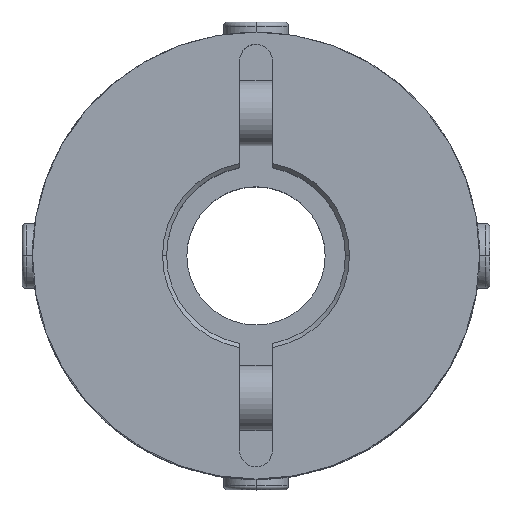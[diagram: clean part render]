
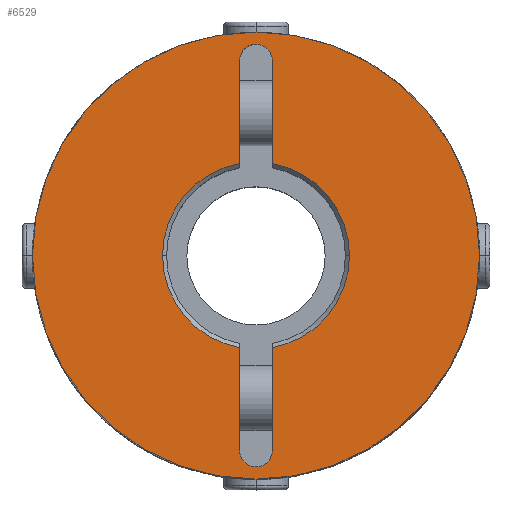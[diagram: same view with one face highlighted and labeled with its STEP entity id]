
A CAD part, top view. The second image highlights one B-rep face of the part: STEP entity #6529.
In plain terms, the highlighted planar face has unit normal (0, 0, 1).
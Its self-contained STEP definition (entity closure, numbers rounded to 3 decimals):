
#2557=CARTESIAN_POINT('',(11.5,0.,29.0));
#2558=VERTEX_POINT('',#2557);
#2574=CARTESIAN_POINT('',(2.,-11.325,29.0));
#2575=VERTEX_POINT('',#2574);
#2589=CARTESIAN_POINT('',(0.,0.0,29.0));
#2590=DIRECTION('',(0.0,0.0,1.0));
#2591=DIRECTION('',(-1.0,0.0,0.0));
#2592=AXIS2_PLACEMENT_3D('',#2589,#2590,#2591);
#2593=CIRCLE('',#2592,11.5);
#2594=EDGE_CURVE('',#2575,#2558,#2593,.T.);
#2756=CARTESIAN_POINT('',(-11.5,0.,29.0));
#2757=VERTEX_POINT('',#2756);
#2764=CARTESIAN_POINT('',(-2.,-11.325,29.0));
#2765=VERTEX_POINT('',#2764);
#2766=CARTESIAN_POINT('',(0.,0.0,29.0));
#2767=DIRECTION('',(0.0,0.0,1.0));
#2768=DIRECTION('',(-1.0,0.0,0.0));
#2769=AXIS2_PLACEMENT_3D('',#2766,#2767,#2768);
#2770=CIRCLE('',#2769,11.5);
#2771=EDGE_CURVE('',#2757,#2765,#2770,.T.);
#2797=CARTESIAN_POINT('',(-1.414,25.414,29.0));
#2798=VERTEX_POINT('',#2797);
#2814=CARTESIAN_POINT('',(2.,24.,29.0));
#2815=VERTEX_POINT('',#2814);
#2822=CARTESIAN_POINT('',(0.,24.,29.0));
#2823=DIRECTION('',(0.0,0.0,1.));
#2824=DIRECTION('',(0.707,0.707,0.0));
#2825=AXIS2_PLACEMENT_3D('',#2822,#2823,#2824);
#2826=CIRCLE('',#2825,2.);
#2827=EDGE_CURVE('',#2815,#2798,#2826,.T.);
#2839=CARTESIAN_POINT('',(1.414,-25.414,29.0));
#2840=VERTEX_POINT('',#2839);
#2856=CARTESIAN_POINT('',(-2.,-24.,29.0));
#2857=VERTEX_POINT('',#2856);
#2864=CARTESIAN_POINT('',(0.,-24.,29.0));
#2865=DIRECTION('',(0.0,0.0,1.0));
#2866=DIRECTION('',(-0.707,-0.707,0.0));
#2867=AXIS2_PLACEMENT_3D('',#2864,#2865,#2866);
#2868=CIRCLE('',#2867,2.0);
#2869=EDGE_CURVE('',#2857,#2840,#2868,.T.);
#3424=CARTESIAN_POINT('',(-27.5,0.,29.0));
#3425=VERTEX_POINT('',#3424);
#3432=CARTESIAN_POINT('',(27.5,0.0,29.0));
#3433=VERTEX_POINT('',#3432);
#3434=CARTESIAN_POINT('',(0.,0.0,29.0));
#3435=DIRECTION('',(0.0,0.0,-1.0));
#3436=DIRECTION('',(1.0,0.0,0.0));
#3437=AXIS2_PLACEMENT_3D('',#3434,#3435,#3436);
#3438=CIRCLE('',#3437,27.5);
#3439=EDGE_CURVE('',#3425,#3433,#3438,.T.);
#5730=CARTESIAN_POINT('',(0.,0.0,29.0));
#5731=DIRECTION('',(0.0,0.0,-1.0));
#5732=DIRECTION('',(1.0,0.0,0.0));
#5733=AXIS2_PLACEMENT_3D('',#5730,#5731,#5732);
#5734=CIRCLE('',#5733,27.5);
#5735=EDGE_CURVE('',#3433,#3425,#5734,.T.);
#6288=CARTESIAN_POINT('',(2.,-24.,29.0));
#6289=VERTEX_POINT('',#6288);
#6290=CARTESIAN_POINT('',(0.,-24.,29.0));
#6291=DIRECTION('',(0.0,0.0,1.0));
#6292=DIRECTION('',(-0.707,-0.707,0.0));
#6293=AXIS2_PLACEMENT_3D('',#6290,#6291,#6292);
#6294=CIRCLE('',#6293,2.0);
#6295=EDGE_CURVE('',#2840,#6289,#6294,.T.);
#6313=CARTESIAN_POINT('',(2.,-11.325,29.0));
#6314=DIRECTION('',(0.0,-1.0,0.0));
#6315=VECTOR('',#6314,12.675);
#6316=LINE('',#6313,#6315);
#6317=EDGE_CURVE('',#2575,#6289,#6316,.T.);
#6336=CARTESIAN_POINT('',(-2.,24.,29.0));
#6337=VERTEX_POINT('',#6336);
#6338=CARTESIAN_POINT('',(0.,24.,29.0));
#6339=DIRECTION('',(0.0,0.0,1.));
#6340=DIRECTION('',(0.707,0.707,0.0));
#6341=AXIS2_PLACEMENT_3D('',#6338,#6339,#6340);
#6342=CIRCLE('',#6341,2.);
#6343=EDGE_CURVE('',#2798,#6337,#6342,.T.);
#6361=CARTESIAN_POINT('',(-2.,11.325,29.0));
#6362=VERTEX_POINT('',#6361);
#6363=CARTESIAN_POINT('',(-2.,11.325,29.0));
#6364=DIRECTION('',(0.0,1.0,0.0));
#6365=VECTOR('',#6364,12.675);
#6366=LINE('',#6363,#6365);
#6367=EDGE_CURVE('',#6362,#6337,#6366,.T.);
#6443=CARTESIAN_POINT('',(2.,11.325,29.0));
#6444=VERTEX_POINT('',#6443);
#6458=CARTESIAN_POINT('',(2.,24.,29.0));
#6459=DIRECTION('',(0.0,-1.0,0.0));
#6460=VECTOR('',#6459,12.675);
#6461=LINE('',#6458,#6460);
#6462=EDGE_CURVE('',#2815,#6444,#6461,.T.);
#6481=CARTESIAN_POINT('',(-2.,-24.,29.0));
#6482=DIRECTION('',(0.0,1.0,0.0));
#6483=VECTOR('',#6482,12.675);
#6484=LINE('',#6481,#6483);
#6485=EDGE_CURVE('',#2857,#2765,#6484,.T.);
#6494=CARTESIAN_POINT('',(2.5,0.,29.0));
#6495=DIRECTION('',(0.0,0.0,1.0));
#6496=DIRECTION('',(1.0,0.0,0.0));
#6497=AXIS2_PLACEMENT_3D('',#6494,#6495,#6496);
#6498=PLANE('',#6497);
#6499=ORIENTED_EDGE('',*,*,#5735,.F.);
#6500=ORIENTED_EDGE('',*,*,#3439,.F.);
#6501=EDGE_LOOP('',(#6499,#6500));
#6502=FACE_OUTER_BOUND('',#6501,.T.);
#6503=ORIENTED_EDGE('',*,*,#6317,.T.);
#6504=ORIENTED_EDGE('',*,*,#6295,.F.);
#6505=ORIENTED_EDGE('',*,*,#2869,.F.);
#6506=ORIENTED_EDGE('',*,*,#6485,.T.);
#6507=ORIENTED_EDGE('',*,*,#2771,.F.);
#6508=CARTESIAN_POINT('',(0.,0.0,29.0));
#6509=DIRECTION('',(0.0,0.0,1.0));
#6510=DIRECTION('',(-1.0,0.0,0.0));
#6511=AXIS2_PLACEMENT_3D('',#6508,#6509,#6510);
#6512=CIRCLE('',#6511,11.5);
#6513=EDGE_CURVE('',#6362,#2757,#6512,.T.);
#6514=ORIENTED_EDGE('',*,*,#6513,.F.);
#6515=ORIENTED_EDGE('',*,*,#6367,.T.);
#6516=ORIENTED_EDGE('',*,*,#6343,.F.);
#6517=ORIENTED_EDGE('',*,*,#2827,.F.);
#6518=ORIENTED_EDGE('',*,*,#6462,.T.);
#6519=CARTESIAN_POINT('',(0.,0.0,29.0));
#6520=DIRECTION('',(0.0,0.0,1.0));
#6521=DIRECTION('',(-1.0,0.0,0.0));
#6522=AXIS2_PLACEMENT_3D('',#6519,#6520,#6521);
#6523=CIRCLE('',#6522,11.5);
#6524=EDGE_CURVE('',#2558,#6444,#6523,.T.);
#6525=ORIENTED_EDGE('',*,*,#6524,.F.);
#6526=ORIENTED_EDGE('',*,*,#2594,.F.);
#6527=EDGE_LOOP('',(#6503,#6504,#6505,#6506,#6507,#6514,#6515,#6516,#6517,#6518,#6525,#6526));
#6528=FACE_BOUND('',#6527,.T.);
#6529=ADVANCED_FACE('',(#6502,#6528),#6498,.T.);
